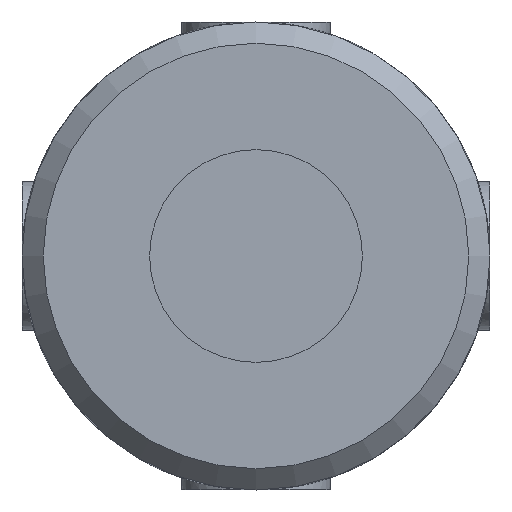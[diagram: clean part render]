
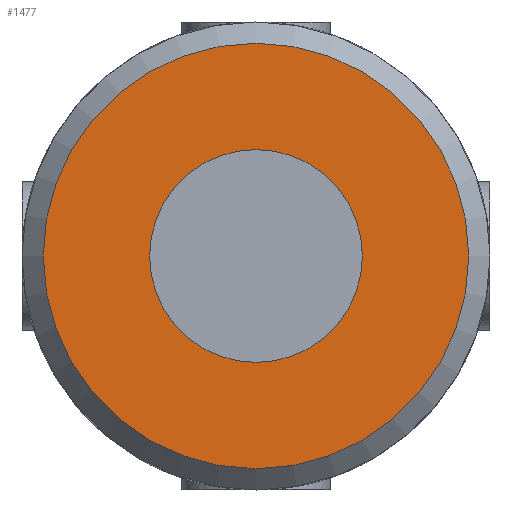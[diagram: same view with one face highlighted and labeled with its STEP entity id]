
A CAD part, front view. The second image highlights one B-rep face of the part: STEP entity #1477.
In plain terms, the highlighted planar face has unit normal (0, -1, 0).
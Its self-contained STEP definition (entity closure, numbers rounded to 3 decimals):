
#266=FACE_BOUND('',#503,.T.);
#376=FACE_OUTER_BOUND('',#502,.T.);
#502=EDGE_LOOP('',(#1254));
#503=EDGE_LOOP('',(#1255));
#587=CIRCLE('',#1627,5.);
#589=CIRCLE('',#1630,10.);
#710=VERTEX_POINT('',#2899);
#712=VERTEX_POINT('',#2904);
#894=EDGE_CURVE('',#710,#710,#587,.T.);
#896=EDGE_CURVE('',#712,#712,#589,.T.);
#1254=ORIENTED_EDGE('',*,*,#896,.F.);
#1255=ORIENTED_EDGE('',*,*,#894,.T.);
#1395=PLANE('',#1632);
#1477=ADVANCED_FACE('',(#376,#266),#1395,.F.);
#1627=AXIS2_PLACEMENT_3D('',#2900,#1961,#1962);
#1630=AXIS2_PLACEMENT_3D('',#2905,#1967,#1968);
#1632=AXIS2_PLACEMENT_3D('',#3081,#1975,#1976);
#1961=DIRECTION('center_axis',(0.,1.,0.));
#1962=DIRECTION('ref_axis',(-1.,0.,0.));
#1967=DIRECTION('center_axis',(0.,1.,0.));
#1968=DIRECTION('ref_axis',(1.,0.,0.));
#1975=DIRECTION('center_axis',(0.,1.,0.));
#1976=DIRECTION('ref_axis',(0.,0.,1.));
#2899=CARTESIAN_POINT('',(5.,-29.5,0.));
#2900=CARTESIAN_POINT('Origin',(0.,-29.5,0.));
#2904=CARTESIAN_POINT('',(-10.,-29.5,0.));
#2905=CARTESIAN_POINT('Origin',(0.,-29.5,0.));
#3081=CARTESIAN_POINT('Origin',(0.,-29.5,0.));
